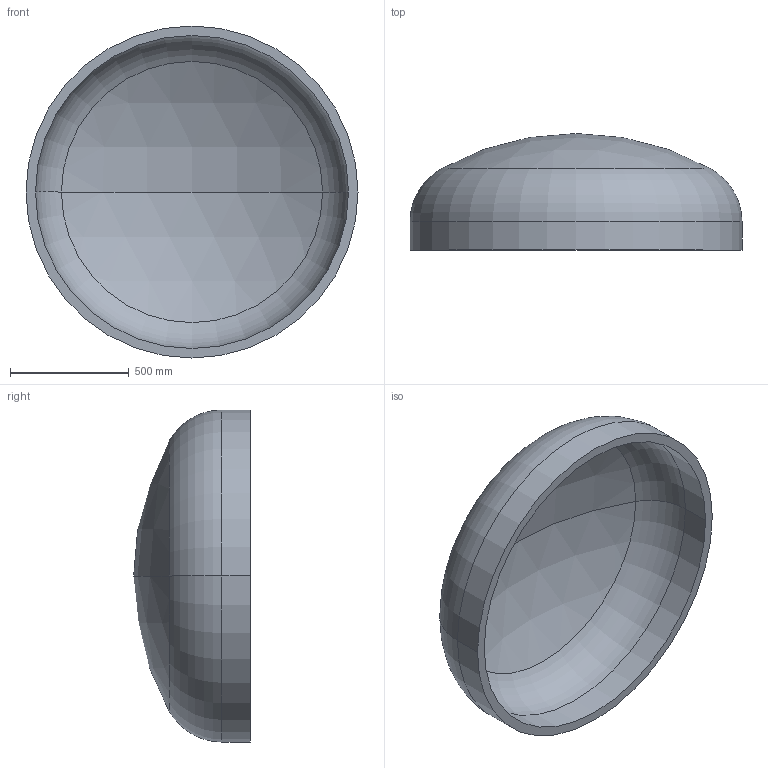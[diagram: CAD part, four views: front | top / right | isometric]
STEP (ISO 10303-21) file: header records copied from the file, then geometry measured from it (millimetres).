
FILE_DESCRIPTION (( 'STEP AP203' ), '1' );
FILE_NAME ('DIN 28013 Korbbogenform_-_Boden DIN 28013 - 1400 x 120 - I - s=40.step', '2016-07-01T10:17:25', ( '' ), ( '' ), 'SwSTEP 2.0', 'SolidWorks 2013', '' );
FILE_SCHEMA (( 'CONFIG_CONTROL_DESIGN' ));
Length unit declared in the file: millimetre
Products named in the file (1): DIN 28013 Korbbogenform_-_Boden DIN 28013 - 1400 x 120 - I - s=40
Bounding box: 1400 x 491.96 x 1400 mm (x, y, z)
Volume: 102615221 mm3; surface area: 5305013.3 mm2
Topology: 1 solids, 1 shells, 13 faces, 24 edges, 14 vertices
Faces by surface type: torus 4, cylinder 4, sphere 4, plane 1
Entity records: 407 total; most frequent: DIRECTION 72, CARTESIAN_POINT 52, ORIENTED_EDGE 48, AXIS2_PLACEMENT_3D 34, EDGE_CURVE 24, CIRCLE 20, VERTEX_POINT 14, EDGE_LOOP 14
